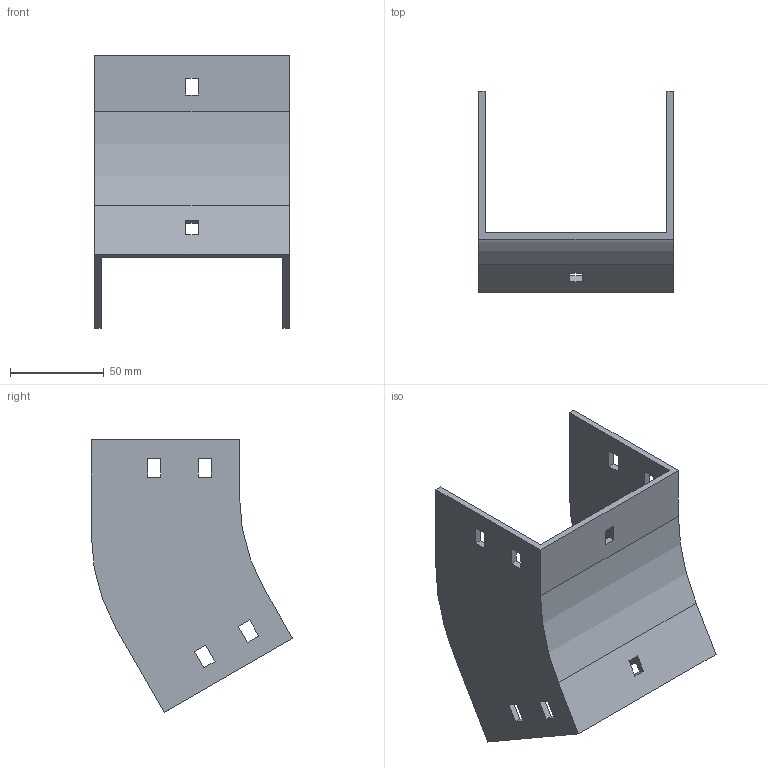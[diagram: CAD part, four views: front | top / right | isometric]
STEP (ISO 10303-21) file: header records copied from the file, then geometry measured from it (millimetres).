
FILE_DESCRIPTION (( 'STEP AP214' ), '1' );
FILE_NAME ('35F1C100.step', '2025-02-21T12:49:48', ( '' ), ( '' ), 'SwSTEP 2.0', 'SolidWorks 2023', '' );
FILE_SCHEMA (( 'AUTOMOTIVE_DESIGN' ));
Length unit declared in the file: millimetre
Products named in the file (1): 35F1C100
Bounding box: 104 x 107.4 x 145.48 mm (x, y, z)
Volume: 110608.8 mm3; surface area: 67235.5 mm2
Topology: 1 solids, 1 shells, 58 faces, 168 edges, 112 vertices
Faces by surface type: plane 54, cylinder 4
Entity records: 1943 total; most frequent: CARTESIAN_POINT 339, ORIENTED_EDGE 336, DIRECTION 294, EDGE_CURVE 168, LINE 160, VECTOR 160, VERTEX_POINT 112, EDGE_LOOP 78
